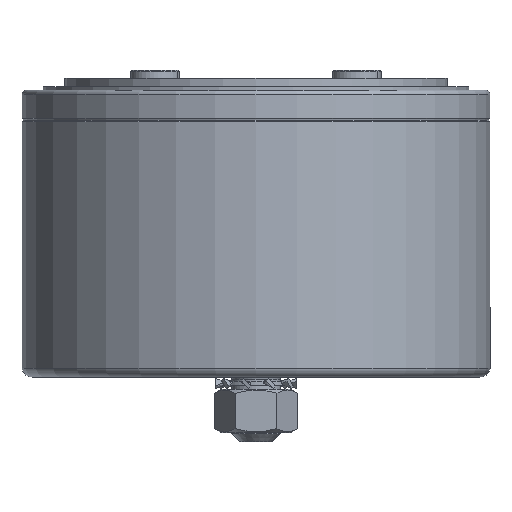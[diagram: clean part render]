
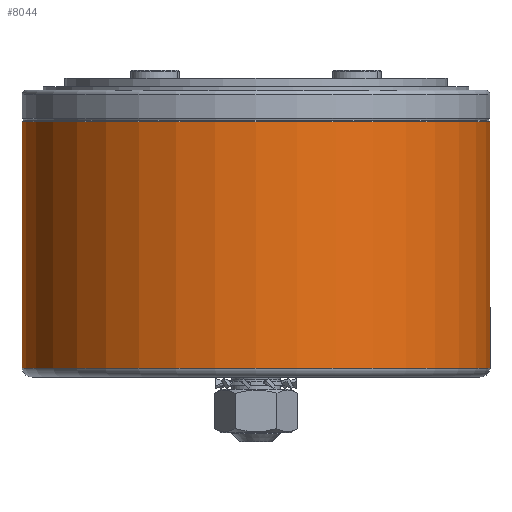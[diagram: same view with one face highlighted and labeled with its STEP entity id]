
A CAD part, front view. The second image highlights one B-rep face of the part: STEP entity #8044.
In plain terms, the highlighted cylindrical face has radius 58 mm (diameter 116 mm), a partial arc.
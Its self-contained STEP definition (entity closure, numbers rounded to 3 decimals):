
#140 = AXIS2_PLACEMENT_3D ( 'NONE', #6811, #2769, #6252 ) ;
#219 = CARTESIAN_POINT ( 'NONE',  ( -73.5, 0., 151.967 ) ) ;
#225 = EDGE_LOOP ( 'NONE', ( #3791, #623, #6879, #4852 ) ) ;
#623 = ORIENTED_EDGE ( 'NONE', *, *, #1226, .T. ) ;
#754 = LINE ( 'NONE', #219, #6918 ) ;
#864 = CARTESIAN_POINT ( 'NONE',  ( -73.5, 0., -18.854 ) ) ;
#1008 = CIRCLE ( 'NONE', #140, 58. ) ;
#1084 = VERTEX_POINT ( 'NONE', #3513 ) ;
#1226 = EDGE_CURVE ( 'NONE', #4215, #1084, #2136, .T. ) ;
#1573 = DIRECTION ( 'NONE',  ( 0., 0., -1. ) ) ;
#1658 = DIRECTION ( 'NONE',  ( -1., 0., 0. ) ) ;
#1858 = VECTOR ( 'NONE', #3821, 1000. ) ;
#2066 = LINE ( 'NONE', #5880, #1858 ) ;
#2136 = CIRCLE ( 'NONE', #6876, 58. ) ;
#2328 = CARTESIAN_POINT ( 'NONE',  ( 42.5, 0., -18.854 ) ) ;
#2769 = DIRECTION ( 'NONE',  ( 0., 0., -1. ) ) ;
#3163 = EDGE_CURVE ( 'NONE', #1084, #6785, #754, .T. ) ;
#3513 = CARTESIAN_POINT ( 'NONE',  ( -73.5, 0., 42.217 ) ) ;
#3791 = ORIENTED_EDGE ( 'NONE', *, *, #8716, .F. ) ;
#3821 = DIRECTION ( 'NONE',  ( 0., 0., -1. ) ) ;
#4215 = VERTEX_POINT ( 'NONE', #4685 ) ;
#4464 = DIRECTION ( 'NONE',  ( 0., 0., -1. ) ) ;
#4533 = FACE_OUTER_BOUND ( 'NONE', #225, .T. ) ;
#4685 = CARTESIAN_POINT ( 'NONE',  ( 42.5, 0., 42.217 ) ) ;
#4776 = AXIS2_PLACEMENT_3D ( 'NONE', #5529, #6874, #4880 ) ;
#4852 = ORIENTED_EDGE ( 'NONE', *, *, #8557, .F. ) ;
#4880 = DIRECTION ( 'NONE',  ( -1., 0., 0. ) ) ;
#5529 = CARTESIAN_POINT ( 'NONE',  ( -15.5, 0., 151.967 ) ) ;
#5851 = VERTEX_POINT ( 'NONE', #2328 ) ;
#5880 = CARTESIAN_POINT ( 'NONE',  ( 42.5, 0., 151.967 ) ) ;
#6252 = DIRECTION ( 'NONE',  ( -1., 0., 0. ) ) ;
#6785 = VERTEX_POINT ( 'NONE', #864 ) ;
#6811 = CARTESIAN_POINT ( 'NONE',  ( -15.5, 0., -18.854 ) ) ;
#6874 = DIRECTION ( 'NONE',  ( 0., 0., -1. ) ) ;
#6876 = AXIS2_PLACEMENT_3D ( 'NONE', #7860, #4464, #1658 ) ;
#6879 = ORIENTED_EDGE ( 'NONE', *, *, #3163, .T. ) ;
#6918 = VECTOR ( 'NONE', #1573, 1000. ) ;
#6975 = CYLINDRICAL_SURFACE ( 'NONE', #4776, 58. ) ;
#7860 = CARTESIAN_POINT ( 'NONE',  ( -15.5, 0., 42.217 ) ) ;
#8044 = ADVANCED_FACE ( 'NONE', ( #4533 ), #6975, .T. ) ;
#8557 = EDGE_CURVE ( 'NONE', #5851, #6785, #1008, .T. ) ;
#8716 = EDGE_CURVE ( 'NONE', #4215, #5851, #2066, .T. ) ;
